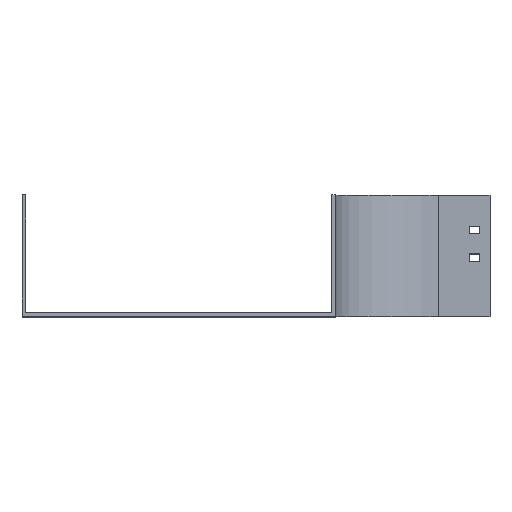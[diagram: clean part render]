
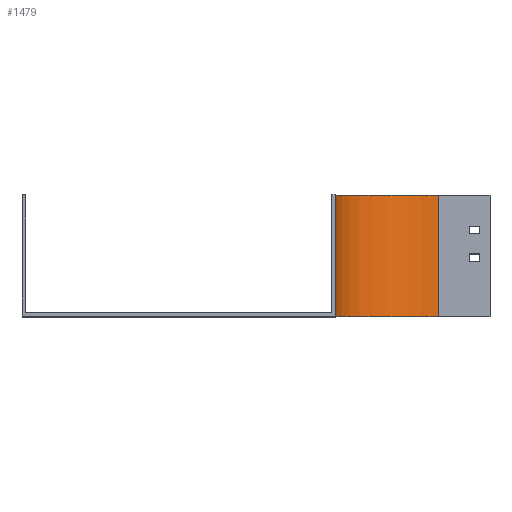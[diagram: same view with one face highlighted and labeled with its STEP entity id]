
A CAD part, top view. The second image highlights one B-rep face of the part: STEP entity #1479.
In plain terms, the highlighted cylindrical face has radius 100 mm (diameter 200 mm), a partial arc.
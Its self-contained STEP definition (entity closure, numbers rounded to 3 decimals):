
#19 = EDGE_LOOP ( 'NONE', ( #620, #107, #2421, #1368 ) ) ;
#107 = ORIENTED_EDGE ( 'NONE', *, *, #2079, .F. ) ;
#150 = CYLINDRICAL_SURFACE ( 'NONE', #1525, 100. ) ;
#196 = EDGE_CURVE ( 'NONE', #265, #1738, #353, .T. ) ;
#205 = CARTESIAN_POINT ( 'NONE',  ( 0., 0., 0. ) ) ;
#265 = VERTEX_POINT ( 'NONE', #2324 ) ;
#353 = CIRCLE ( 'NONE', #541, 100. ) ;
#417 = CIRCLE ( 'NONE', #1924, 100. ) ;
#491 = DIRECTION ( 'NONE',  ( 0., -1., 0. ) ) ;
#541 = AXIS2_PLACEMENT_3D ( 'NONE', #205, #1889, #2743 ) ;
#620 = ORIENTED_EDGE ( 'NONE', *, *, #196, .T. ) ;
#668 = CARTESIAN_POINT ( 'NONE',  ( 0., 117.5, 0. ) ) ;
#704 = VERTEX_POINT ( 'NONE', #1841 ) ;
#728 = CARTESIAN_POINT ( 'NONE',  ( 0., 0., -100. ) ) ;
#894 = CARTESIAN_POINT ( 'NONE',  ( 0., 117.5, -100. ) ) ;
#1012 = DIRECTION ( 'NONE',  ( 0., 0., -1. ) ) ;
#1137 = EDGE_CURVE ( 'NONE', #704, #265, #2380, .T. ) ;
#1144 = DIRECTION ( 'NONE',  ( 0., 0., -1. ) ) ;
#1368 = ORIENTED_EDGE ( 'NONE', *, *, #1137, .T. ) ;
#1479 = ADVANCED_FACE ( 'NONE', ( #1837 ), #150, .F. ) ;
#1525 = AXIS2_PLACEMENT_3D ( 'NONE', #2046, #2087, #1012 ) ;
#1551 = CARTESIAN_POINT ( 'NONE',  ( 0., 117.5, -100. ) ) ;
#1654 = VECTOR ( 'NONE', #2173, 1000. ) ;
#1738 = VERTEX_POINT ( 'NONE', #728 ) ;
#1837 = FACE_OUTER_BOUND ( 'NONE', #19, .T. ) ;
#1841 = CARTESIAN_POINT ( 'NONE',  ( -100., 117.5, 0. ) ) ;
#1889 = DIRECTION ( 'NONE',  ( 0., -1., 0. ) ) ;
#1924 = AXIS2_PLACEMENT_3D ( 'NONE', #668, #2157, #1144 ) ;
#2046 = CARTESIAN_POINT ( 'NONE',  ( 0., 117.5, 0. ) ) ;
#2079 = EDGE_CURVE ( 'NONE', #2089, #1738, #2386, .T. ) ;
#2087 = DIRECTION ( 'NONE',  ( 0., -1., 0. ) ) ;
#2089 = VERTEX_POINT ( 'NONE', #894 ) ;
#2157 = DIRECTION ( 'NONE',  ( 0., -1., 0. ) ) ;
#2173 = DIRECTION ( 'NONE',  ( 0., -1., 0. ) ) ;
#2199 = CARTESIAN_POINT ( 'NONE',  ( -100., 117.5, 0. ) ) ;
#2312 = EDGE_CURVE ( 'NONE', #704, #2089, #417, .T. ) ;
#2324 = CARTESIAN_POINT ( 'NONE',  ( -100., 0., 0. ) ) ;
#2349 = VECTOR ( 'NONE', #491, 1000. ) ;
#2380 = LINE ( 'NONE', #2199, #2349 ) ;
#2386 = LINE ( 'NONE', #1551, #1654 ) ;
#2421 = ORIENTED_EDGE ( 'NONE', *, *, #2312, .F. ) ;
#2743 = DIRECTION ( 'NONE',  ( 0., 0., -1. ) ) ;
